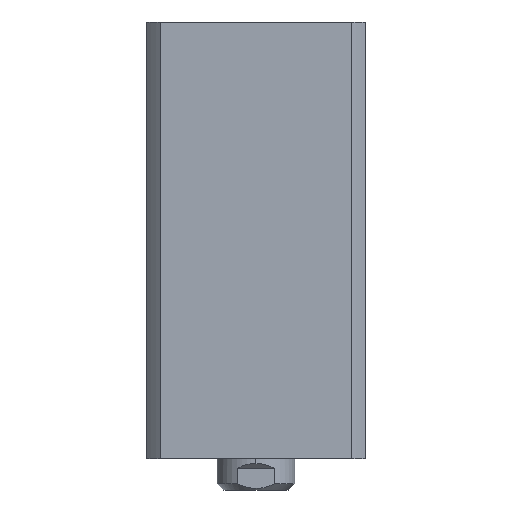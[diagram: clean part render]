
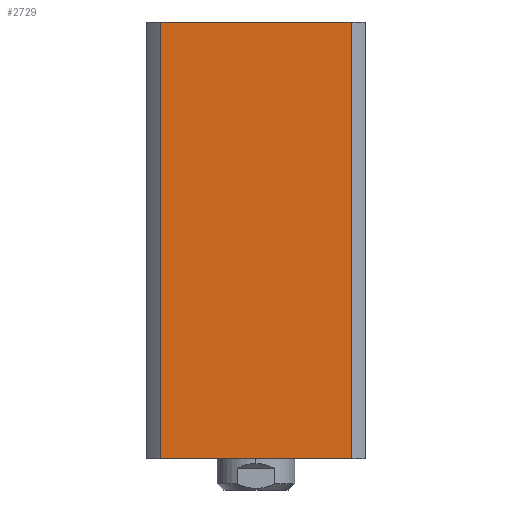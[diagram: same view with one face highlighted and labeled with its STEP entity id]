
A CAD part, front view. The second image highlights one B-rep face of the part: STEP entity #2729.
In plain terms, the highlighted planar face has unit normal (0, -1, 0) as drawn and (1, 0, 0) by its records, which use the part's own axes.
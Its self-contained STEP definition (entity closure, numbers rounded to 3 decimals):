
#660 = VECTOR ( 'NONE', #6661, 1000. ) ;
#1363 = ORIENTED_EDGE ( 'NONE', *, *, #5515, .F. ) ;
#1586 = CARTESIAN_POINT ( 'NONE',  ( 35., 30.615, 0. ) ) ;
#1695 = LINE ( 'NONE', #6772, #9685 ) ;
#1990 = CARTESIAN_POINT ( 'NONE',  ( 35., 35., 140. ) ) ;
#2380 = CARTESIAN_POINT ( 'NONE',  ( 35., -30.615, 140. ) ) ;
#2392 = VECTOR ( 'NONE', #3053, 1000. ) ;
#2499 = DIRECTION ( 'NONE',  ( 0., 0., -1. ) ) ;
#2511 = EDGE_LOOP ( 'NONE', ( #6716, #1363, #3944, #6386 ) ) ;
#2729 = ADVANCED_FACE ( 'NONE', ( #2987 ), #8533, .F. ) ;
#2891 = DIRECTION ( 'NONE',  ( 0., 0., 1. ) ) ;
#2957 = CARTESIAN_POINT ( 'NONE',  ( 35., -30.615, 0. ) ) ;
#2987 = FACE_OUTER_BOUND ( 'NONE', #2511, .T. ) ;
#3053 = DIRECTION ( 'NONE',  ( 0., 1., 0. ) ) ;
#3165 = VERTEX_POINT ( 'NONE', #3240 ) ;
#3240 = CARTESIAN_POINT ( 'NONE',  ( 35., 30.615, 140. ) ) ;
#3922 = DIRECTION ( 'NONE',  ( -1., 0., 0. ) ) ;
#3944 = ORIENTED_EDGE ( 'NONE', *, *, #6841, .F. ) ;
#4122 = EDGE_CURVE ( 'NONE', #3165, #7598, #4721, .T. ) ;
#4721 = LINE ( 'NONE', #7157, #6314 ) ;
#4887 = VERTEX_POINT ( 'NONE', #2957 ) ;
#5358 = CARTESIAN_POINT ( 'NONE',  ( 35., 35., 0. ) ) ;
#5515 = EDGE_CURVE ( 'NONE', #9142, #3165, #6631, .T. ) ;
#6314 = VECTOR ( 'NONE', #2499, 1000. ) ;
#6386 = ORIENTED_EDGE ( 'NONE', *, *, #8301, .T. ) ;
#6631 = LINE ( 'NONE', #1990, #660 ) ;
#6661 = DIRECTION ( 'NONE',  ( 0., 1., 0. ) ) ;
#6716 = ORIENTED_EDGE ( 'NONE', *, *, #4122, .F. ) ;
#6772 = CARTESIAN_POINT ( 'NONE',  ( 35., -30.615, 300. ) ) ;
#6841 = EDGE_CURVE ( 'NONE', #4887, #9142, #1695, .T. ) ;
#7157 = CARTESIAN_POINT ( 'NONE',  ( 35., 30.615, 300. ) ) ;
#7598 = VERTEX_POINT ( 'NONE', #1586 ) ;
#8301 = EDGE_CURVE ( 'NONE', #4887, #7598, #8837, .T. ) ;
#8533 = PLANE ( 'NONE',  #9630 ) ;
#8569 = CARTESIAN_POINT ( 'NONE',  ( 35., 35., 140. ) ) ;
#8837 = LINE ( 'NONE', #5358, #2392 ) ;
#9142 = VERTEX_POINT ( 'NONE', #2380 ) ;
#9361 = DIRECTION ( 'NONE',  ( 0., 0., 1. ) ) ;
#9630 = AXIS2_PLACEMENT_3D ( 'NONE', #8569, #3922, #9361 ) ;
#9685 = VECTOR ( 'NONE', #2891, 1000. ) ;
